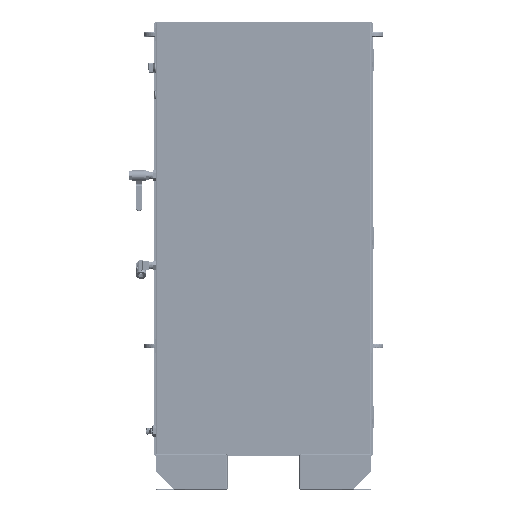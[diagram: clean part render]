
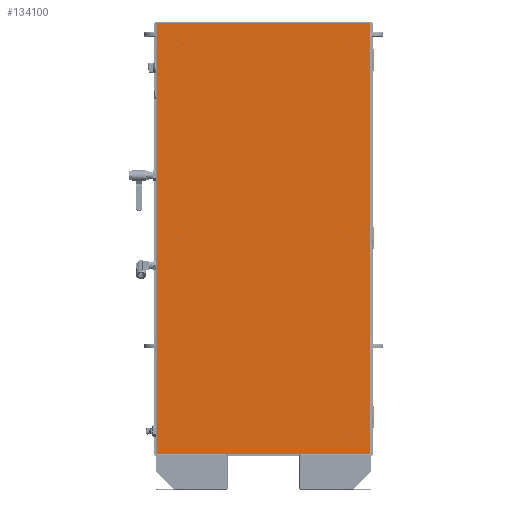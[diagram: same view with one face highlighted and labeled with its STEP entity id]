
A CAD part, left-side view. The second image highlights one B-rep face of the part: STEP entity #134100.
In plain terms, the highlighted planar face has unit normal (-1, 0, 0).
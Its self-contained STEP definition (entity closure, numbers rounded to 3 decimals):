
#2700=PLANE('',#141520);
#6540=FACE_BOUND('',#18297,.T.);
#6541=FACE_BOUND('',#18298,.T.);
#6542=FACE_BOUND('',#18299,.T.);
#6543=FACE_BOUND('',#18300,.T.);
#6544=FACE_BOUND('',#18301,.T.);
#6545=FACE_BOUND('',#18302,.T.);
#11295=FACE_OUTER_BOUND('',#18296,.T.);
#18296=EDGE_LOOP('',(#90645,#90646,#90647,#90648));
#18297=EDGE_LOOP('',(#90649));
#18298=EDGE_LOOP('',(#90650));
#18299=EDGE_LOOP('',(#90651));
#18300=EDGE_LOOP('',(#90652));
#18301=EDGE_LOOP('',(#90653));
#18302=EDGE_LOOP('',(#90654));
#26337=LINE('',#189329,#38409);
#26341=LINE('',#189347,#38413);
#26438=LINE('',#189620,#38510);
#26469=LINE('',#189725,#38541);
#38409=VECTOR('',#153234,39.37);
#38413=VECTOR('',#153250,39.37);
#38510=VECTOR('',#153439,39.37);
#38541=VECTOR('',#153558,39.37);
#50043=CIRCLE('',#141382,0.045);
#50045=CIRCLE('',#141385,0.045);
#50119=CIRCLE('',#141502,0.045);
#50121=CIRCLE('',#141505,0.045);
#50123=CIRCLE('',#141508,0.045);
#50125=CIRCLE('',#141511,0.045);
#54696=VERTEX_POINT('',#189192);
#54698=VERTEX_POINT('',#189198);
#54744=VERTEX_POINT('',#189327);
#54745=VERTEX_POINT('',#189328);
#54752=VERTEX_POINT('',#189345);
#54753=VERTEX_POINT('',#189346);
#54900=VERTEX_POINT('',#189687);
#54902=VERTEX_POINT('',#189693);
#54904=VERTEX_POINT('',#189699);
#54906=VERTEX_POINT('',#189705);
#68877=EDGE_CURVE('',#54696,#54696,#50043,.T.);
#68880=EDGE_CURVE('',#54698,#54698,#50045,.T.);
#68943=EDGE_CURVE('',#54744,#54745,#26337,.T.);
#68951=EDGE_CURVE('',#54752,#54753,#26341,.T.);
#69090=EDGE_CURVE('',#54744,#54753,#26438,.T.);
#69124=EDGE_CURVE('',#54900,#54900,#50119,.T.);
#69127=EDGE_CURVE('',#54902,#54902,#50121,.T.);
#69130=EDGE_CURVE('',#54904,#54904,#50123,.T.);
#69133=EDGE_CURVE('',#54906,#54906,#50125,.T.);
#69143=EDGE_CURVE('',#54752,#54745,#26469,.T.);
#90645=ORIENTED_EDGE('',*,*,#69090,.F.);
#90646=ORIENTED_EDGE('',*,*,#68943,.T.);
#90647=ORIENTED_EDGE('',*,*,#69143,.F.);
#90648=ORIENTED_EDGE('',*,*,#68951,.T.);
#90649=ORIENTED_EDGE('',*,*,#68880,.T.);
#90650=ORIENTED_EDGE('',*,*,#69124,.T.);
#90651=ORIENTED_EDGE('',*,*,#69127,.T.);
#90652=ORIENTED_EDGE('',*,*,#69130,.T.);
#90653=ORIENTED_EDGE('',*,*,#68877,.T.);
#90654=ORIENTED_EDGE('',*,*,#69133,.T.);
#134100=ADVANCED_FACE('',(#11295,#6540,#6541,#6542,#6543,#6544,#6545),#2700,
 .F.);
#141382=AXIS2_PLACEMENT_3D('',#189193,#153104,#153105);
#141385=AXIS2_PLACEMENT_3D('',#189199,#153111,#153112);
#141502=AXIS2_PLACEMENT_3D('',#189688,#153515,#153516);
#141505=AXIS2_PLACEMENT_3D('',#189694,#153522,#153523);
#141508=AXIS2_PLACEMENT_3D('',#189700,#153529,#153530);
#141511=AXIS2_PLACEMENT_3D('',#189706,#153536,#153537);
#141520=AXIS2_PLACEMENT_3D('',#189724,#153556,#153557);
#153104=DIRECTION('center_axis',(1.,0.,0.));
#153105=DIRECTION('ref_axis',(0.,1.,0.));
#153111=DIRECTION('center_axis',(1.,0.,0.));
#153112=DIRECTION('ref_axis',(0.,1.,0.));
#153234=DIRECTION('',(0.,0.,-1.));
#153250=DIRECTION('',(0.,0.,1.));
#153439=DIRECTION('',(0.,-1.,0.));
#153515=DIRECTION('center_axis',(1.,0.,0.));
#153516=DIRECTION('ref_axis',(0.,1.,0.));
#153522=DIRECTION('center_axis',(1.,0.,0.));
#153523=DIRECTION('ref_axis',(0.,1.,0.));
#153529=DIRECTION('center_axis',(1.,0.,0.));
#153530=DIRECTION('ref_axis',(0.,1.,0.));
#153536=DIRECTION('center_axis',(1.,0.,0.));
#153537=DIRECTION('ref_axis',(0.,1.,0.));
#153556=DIRECTION('center_axis',(1.,0.,0.));
#153557=DIRECTION('ref_axis',(0.,1.,0.));
#153558=DIRECTION('',(0.,1.,0.));
#189192=CARTESIAN_POINT('',(0.,21.58,6.437));
#189193=CARTESIAN_POINT('Origin',(0.,21.625,6.437));
#189198=CARTESIAN_POINT('',(0.,2.33,49.687));
#189199=CARTESIAN_POINT('Origin',(0.,2.375,
49.687));
#189327=CARTESIAN_POINT('',(0.,23.887,52.062));
#189328=CARTESIAN_POINT('',(0.,23.887,4.062));
#189329=CARTESIAN_POINT('',(0.,23.887,52.062));
#189345=CARTESIAN_POINT('',(0.,0.113,4.062));
#189346=CARTESIAN_POINT('',(0.,0.113,52.062));
#189347=CARTESIAN_POINT('',(0.,0.113,4.062));
#189620=CARTESIAN_POINT('',(0.,24.,52.062));
#189687=CARTESIAN_POINT('',(0.,2.33,28.062));
#189688=CARTESIAN_POINT('Origin',(0.,2.375,28.062));
#189693=CARTESIAN_POINT('',(0.,21.58,49.687));
#189694=CARTESIAN_POINT('Origin',(0.,21.625,49.687));
#189699=CARTESIAN_POINT('',(0.,21.58,28.062));
#189700=CARTESIAN_POINT('Origin',(0.,21.625,28.062));
#189705=CARTESIAN_POINT('',(0.,2.33,6.437));
#189706=CARTESIAN_POINT('Origin',(0.,2.375,
6.437));
#189724=CARTESIAN_POINT('Origin',(0.,0.,
4.062));
#189725=CARTESIAN_POINT('',(0.,0.,
4.062));
